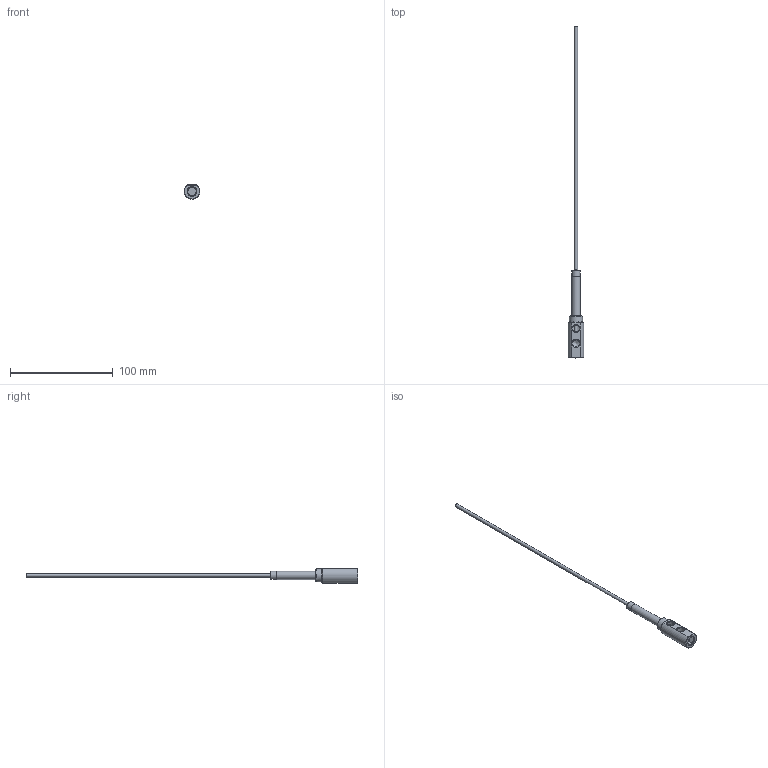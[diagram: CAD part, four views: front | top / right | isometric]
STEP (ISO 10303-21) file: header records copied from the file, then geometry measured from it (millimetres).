
FILE_DESCRIPTION(/* description */ (''),/* implementation_level */ '2;1');
FILE_NAME(/* name */ 'C:/Users/drich/Desktop/E16N v1.step',/* time_stamp */ '2020-01-15T19:30:07-06:00',/* author */ (''),/* organization */ (''),/* preprocessor_version */ 'ST-DEVELOPER v18',/* originating_system */ 'Autodesk Translation Framework v8.12.0.6',/* authorisation */ '');
FILE_SCHEMA (('AUTOMOTIVE_DESIGN { 1 0 10303 214 3 1 1 }'));
Length unit declared in the file: inch
Products named in the file (4): E16N; E16H; SSPN16-2; HF125T-12
Assembly tree (3 placements, depth 2):
  E16N
    E16H
    SSPN16-2
    HF125T-12
Bounding box: 15.49 x 323.47 x 14.43 mm (x, y, z)
Volume: 7396.3 mm3; surface area: 11042.5 mm2
Topology: 3 solids, 3 shells, 57 faces, 150 edges, 101 vertices
Faces by surface type: plane 24, cylinder 17, cone 13, torus 3
Full cylindrical faces by diameter (mm): 2.769 x1, 3.175 x1, 4.064 x1, 4.727 x1, 4.801 x1, 5.309 x1, 6.697 x5, 7.874 x2, 7.925 x1, 9.296 x1, 12.7 x1
Entity records: 2024 total; most frequent: CARTESIAN_POINT 458, DIRECTION 326, ORIENTED_EDGE 296, EDGE_CURVE 148, AXIS2_PLACEMENT_3D 138, VERTEX_POINT 101, EDGE_LOOP 69, CIRCLE 66
